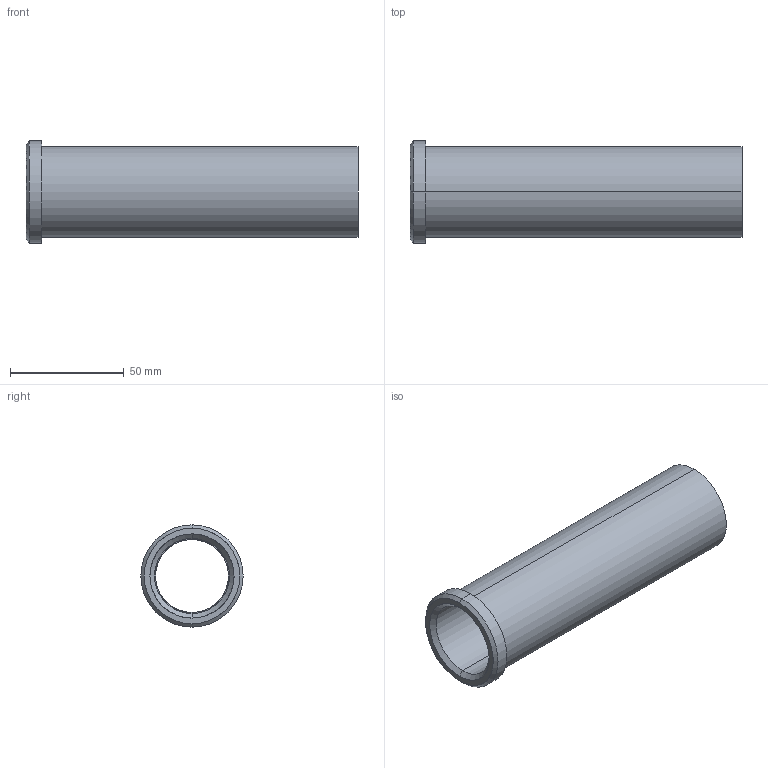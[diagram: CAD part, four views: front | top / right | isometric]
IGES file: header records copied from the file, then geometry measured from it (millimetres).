
Start section: START RECORD GO HERE.
Global section: file name: 353-32X146.igs; native system: DASSAULT SYSTEMES CATIA V5 R20 - www.3ds.com; preprocessor: CATIA Version 5 Release 20 ; author: Utente; organization: NB04-ASUS; date: 20210512.205944; units: millimetre
Bounding box: 146 x 45 x 45 mm (x, y, z)
Surface area: 34636.4 mm2 (no closed solid volume)
Topology: 0 solids, 0 shells, 18 faces, 116 edges, 116 vertices
Faces by surface type: revolution 14, plane 4
